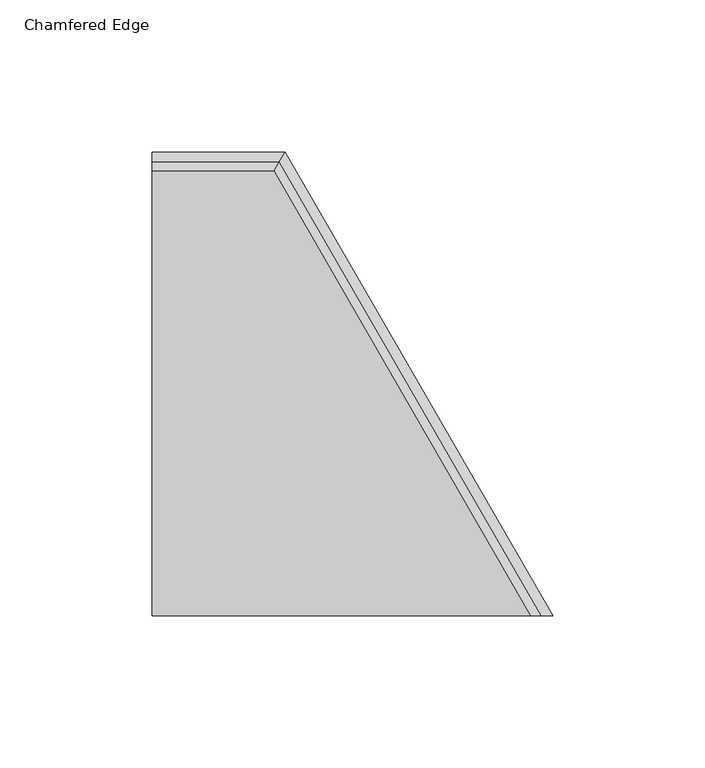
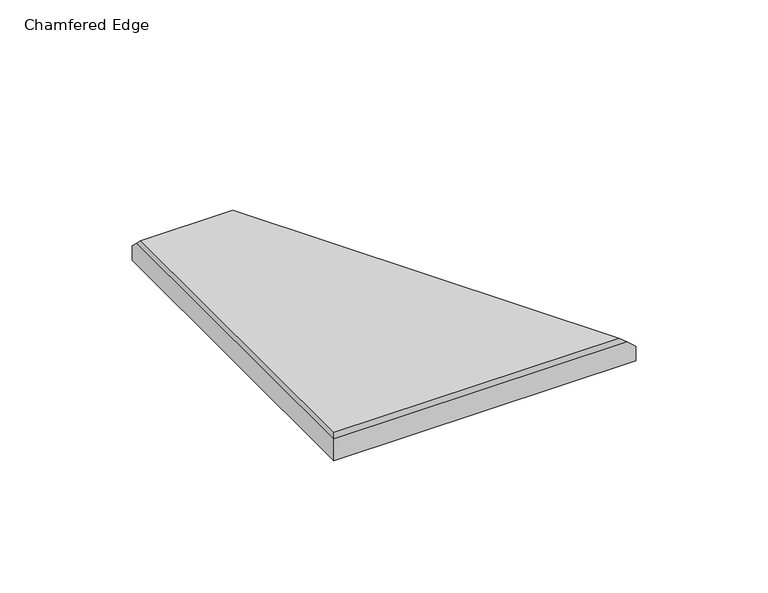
"""IFC4 building model written with IfcOpenShell, lengths in millimetres: proxy geometry, FilzFelt_Hex_Block : Chamfered Edge."""

from ifc_helpers import new_model, si_unit, origin, place, context, project, spatial, faceted_brep, source, transform, mapped, element, save


def chamfered_edge_54a6cffc(model_context):
    return source(origin(), model_context, "Body", "Brep", [
        faceted_brep([(44.2024582, 149.0265625, 10.0210937), (86.040526, 149.0265625, 10.0210937), (172.081052, 0.0, 10.0210937), (44.2024582, 0.0, 10.0210937), (168.6440136, 0.0, 12.9976563), (84.3220068, 146.05, 12.9976563), (44.2024582, 146.05, 12.9976563), (44.2024582, 0.0, 12.9976563)], [[[0, 1, 2, 3]], [[4, 5, 6, 7]], [[5, 4, 2, 1]], [[1, 0, 6, 5]], [[3, 2, 4, 7]], [[7, 6, 0, 3]]]),
        faceted_brep([(175.976362, 0.0, 0.0), (44.2024582, 0.0, 0.0), (44.2024582, 152.4, 0.0), (87.988181, 152.4, 0.0), (172.081052, 0.0, 10.0210937), (86.040526, 149.0265625, 10.0210937), (44.2024582, 149.0265625, 10.0210937), (44.2024582, 0.0, 10.0210937), (87.988181, 152.4, 6.6476563), (175.976362, 0.0, 6.6476563), (44.2024582, 152.4, 6.6476562)], [[[0, 1, 2, 3]], [[4, 5, 6, 7]], [[3, 8, 9, 0]], [[2, 10, 8, 3]], [[5, 4, 9, 8]], [[8, 10, 6, 5]], [[0, 9, 4, 7, 1]], [[1, 7, 6, 10, 2]]]),
    ])


if __name__ == "__main__":
    model = new_model("IFC4")
    model_context = context("Model", 3, world=origin())
    ifc_project = project(units=[si_unit("LENGTHUNIT", "METRE", prefix="MILLI")], contexts=[model_context])
    site = spatial("IfcSite", under=ifc_project)
    building = spatial("IfcBuilding", under=site)
    placement = place(None, origin())
    chamfered_edge_shape = chamfered_edge_54a6cffc(model_context)
    element("IfcBuildingElementProxy", 1, Name="FilzFelt_Hex_Block : Chamfered Edge", ObjectType="FilzFelt_Hex_Block : Chamfered Edge", at=placement, inside=building, context=model_context, shape_type="MappedRepresentation", body=[
        mapped(chamfered_edge_shape, transform((0.0, 0.0, 0.0), x_axis=(1.0, 0.0, 0.0), y_axis=(0.0, 1.0, 0.0), z_axis=(0.0, 0.0, 1.0))),
    ])
    save(model, "model.ifc")
